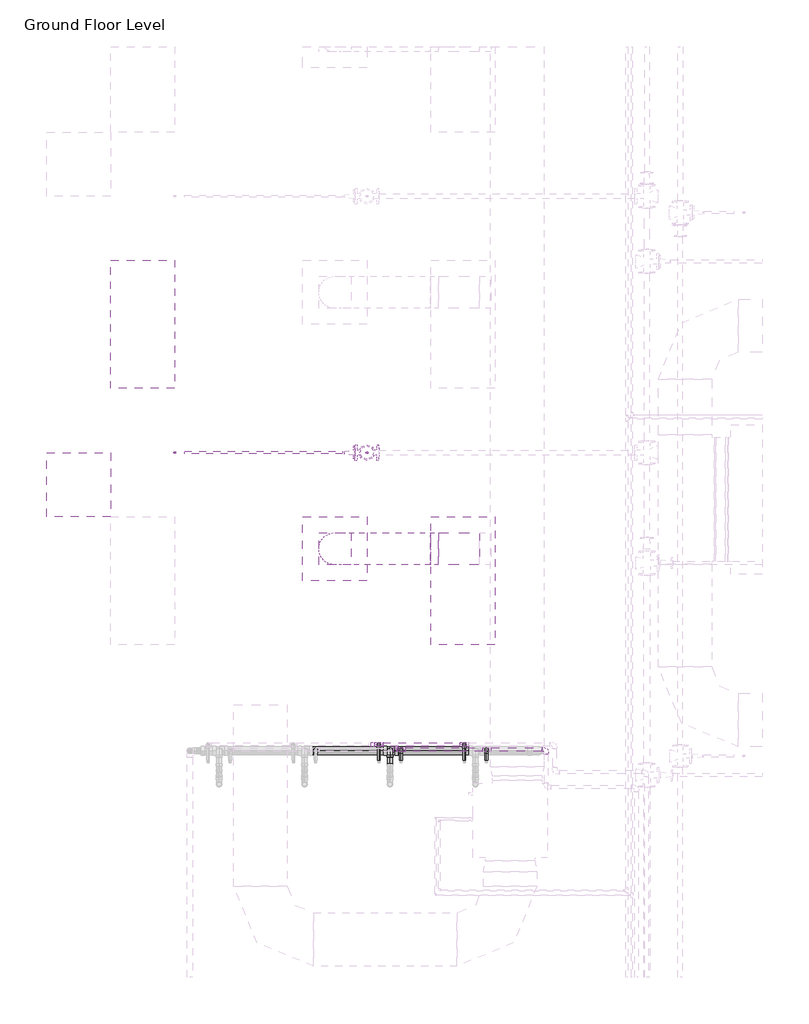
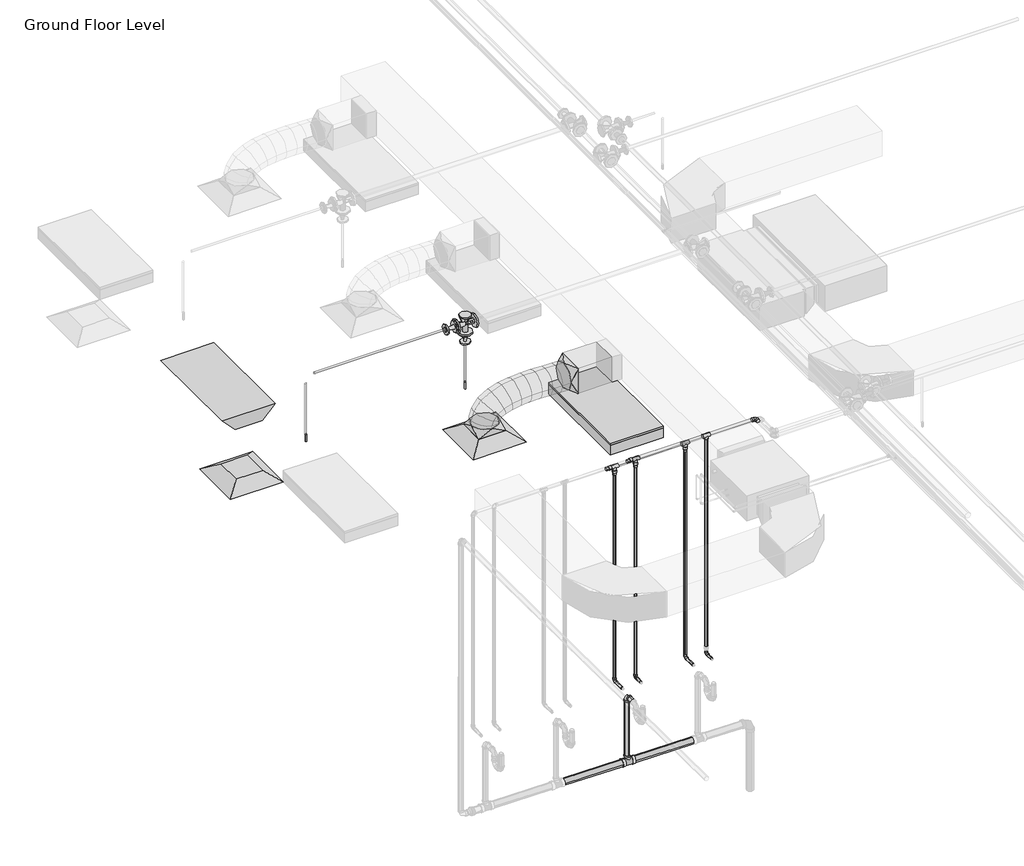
# One storey, part 24 of 74: 19 pipe fittings, 18 pipe segments, 2 air terminals, 2 duct fittings, 2 duct segments, 2 fire suppression terminals, 2 light fixtures.
"""IFC4 building model written with IfcOpenShell, lengths in millimetres."""

from ifc_helpers import new_model, si_unit, point, frame, frame_2d, origin, place, context, project, spatial, polyline, circle_curve, ellipse_curve, trimmed, segment, composite_curve, outline, extrude, transform, mapped, element, save
from ifc_brep_helpers import plane_surface, cylinder_surface, advanced_brep
from components import m_return_diffuser_600_x_600_face_300_x_300_connection_ff221211, m_rectangular_to_round_transition_angle_45_degree_641efff0, m_sprinkler_dry_pendent_hosted_15_mm_dry_pendent_9bda8e11, m_emergency_recessed_lighting_fixture_600x1200_277_5b10b25d, m_troffer_light_parabolic_rectangular1_0600x1200mm_4_lamp_86473d4a, m_bend_pvc_sch_40_dwv_standard_b3f66ba9, m_reducer_flanged_cs_class_150_standard_dc68ad9d, m_tee_reducing_sanitary_pvc_sch_40_dwv_standard_21d2848c, m_tee_round_base_flanged_cs_class_150_standard_ab36f383, standard_b266ab3f, standard_517a5a8d, standard_72b35c3b, standard_e954f56a, standard_e5aa6446

model = new_model("IFC4")

# Units and contexts
model_context = context("Model", 3, world=origin())
ifc_project = project(units=[si_unit("LENGTHUNIT", "METRE", prefix="MILLI")], contexts=[model_context])

# Site, building, storey
site = spatial("IfcSite", under=ifc_project)
building = spatial("IfcBuilding", under=site)
storey = spatial("IfcBuildingStorey", under=building, Name="Ground Floor Level", Elevation=900.0)

# Air terminals
placement = place(None, origin())
m_return_diffuser_600_x_600_face_300_x_300_connection_shape = m_return_diffuser_600_x_600_face_300_x_300_connection_ff221211(model_context)
element("IfcAirTerminal", 1, ObjectType="M_Return Diffuser : 600 x 600 Face 300 x 300 Connection", at=placement, inside=storey, context=model_context, shape_type="MappedRepresentation", body=[
    mapped(m_return_diffuser_600_x_600_face_300_x_300_connection_shape, transform((362.7672395, -21364.7846466, 3650.0), x_axis=(1.0, 0.0, 0.0), y_axis=(0.0, 1.0, 0.0), z_axis=(0.0, 0.0, 1.0))),
])
element("IfcAirTerminal", 2, ObjectType="M_Supply Diffuser : 600 x 600 Face 300 x 300 Connection", at=placement, inside=storey, context=model_context, shape_type="MappedRepresentation", body=[
    mapped(m_return_diffuser_600_x_600_face_300_x_300_connection_shape, transform((2762.7672395, -21964.7846466, 3650.0), x_axis=(1.0, 0.0, 0.0), y_axis=(0.0, 1.0, 0.0), z_axis=(0.0, 0.0, 1.0))),
])

# Duct fittings
m_rectangular_to_round_transition_angle_45_degree_shape = m_rectangular_to_round_transition_angle_45_degree_641efff0(model_context)
element("IfcDuctFitting", 3, ObjectType="M_Rectangular to Round Transition - Angle : 45 Degree", at=placement, inside=storey, context=model_context, shape_type="MappedRepresentation", body=[
    mapped(m_rectangular_to_round_transition_angle_45_degree_shape, transform((2762.7672395, -21964.7846466, 3751.6), x_axis=(0.0, 0.0, 1.0), y_axis=(-1.0, 0.0, 0.0), z_axis=(0.0, -1.0, 0.0))),
])
element("IfcDuctFitting", 4, ObjectType="M_Rectangular to Round Transition - Angle : 45 Degree", at=placement, inside=storey, context=model_context, shape_type="MappedRepresentation", body=[
    mapped(m_rectangular_to_round_transition_angle_45_degree_shape, transform((3732.9512129, -21964.7846466, 4057.1519579), x_axis=(-1.0, 0.0, 0.0), y_axis=(0.0, -1.0, 0.0), z_axis=(0.0, 0.0, 1.0))),
])

# Duct segments
element("IfcDuctSegment", 5, ObjectType="Flex - Round", at=placement, inside=storey, context=model_context, shape_type="AdvancedBrep", body=[
    advanced_brep(
    [(2912.7672395, -21964.7846466, 3826.6), (2762.7672395, -22114.7846466, 3826.6), (2612.7672395, -21964.7846466, 3826.6), (2762.7672395, -21814.7846466, 3826.6), (2912.7672395, -21964.7846466, 3832.8904143), (2762.7672395, -22114.7846466, 3856.8494149), (2612.7672395, -21964.7846466, 3880.8084155), (2762.7672395, -21814.7846466, 3856.8494149), (2914.0859082, -21964.7846466, 3836.9129923), (2779.5128239, -22114.7846466, 3907.9315565), (2644.9397396, -21964.7846466, 3978.9501208), (2779.5128239, -21814.7846466, 3907.9315565), (2928.1338147, -21964.7846466, 3855.2244817), (2826.2856906, -22114.7846466, 3968.9001322), (2724.4375665, -21964.7846466, 4082.5757828), (2826.2856906, -21814.7846466, 3968.9001322), (2960.075367, -21964.7846466, 3874.5779986), (2897.8900097, -22114.7846466, 4012.2854816), (2835.7046525, -21964.7846466, 4149.9929645), (2897.8900097, -21814.7846466, 4012.2854816), (3023.3471395, -21964.7846466, 3894.3985509), (2989.1299517, -22114.7846466, 4040.8673589), (2954.9127638, -21964.7846466, 4187.3361668), (2989.1299517, -21814.7846466, 4040.8673589), (3111.2174774, -21964.7846466, 3908.1662907), (3094.8096865, -22114.7846466, 4057.4255186), (3078.4018957, -21964.7846466, 4206.6847465), (3094.8096865, -21814.7846466, 4057.4255186), (3215.0370803, -21964.7846466, 3914.773779), (3209.7333846, -22114.7846466, 4064.7397152), (3204.4296888, -21964.7846466, 4214.7056514), (3209.7333846, -21814.7846466, 4064.7397152), (3327.4369923, -21964.7846466, 3915.576814), (3328.705216, -22114.7846466, 4065.589703), (3329.9734397, -21964.7846466, 4215.6025919), (3328.705216, -21814.7846466, 4065.589703), (3442.2113611, -21964.7846466, 3912.815715), (3446.529351, -22114.7846466, 4062.7552364), (3450.847341, -21964.7846466, 4212.6947579), (3446.529351, -21814.7846466, 4062.7552364), (3554.0566752, -21964.7846466, 3909.0643159), (3558.0099599, -22114.7846466, 4059.0160699), (3561.9632447, -21964.7846466, 4208.9678239), (3558.0099599, -21814.7846466, 4059.0160699), (3657.9512129, -21964.7846466, 3907.1519579), (3657.9512129, -21814.7846466, 4057.1519579), (3657.9512129, -21964.7846466, 4207.1519579), (3657.9512129, -22114.7846466, 4057.1519579), (3653.7148319, -21964.7846466, 3907.1519579), (3655.1538878, -22114.7846466, 4057.1519579), (3656.5929436, -21964.7846466, 4207.1519579), (3655.1538878, -21814.7846466, 4057.1519579)],
    [
        (0, 1, circle_curve(frame((2762.7672395, -21964.7846466, 3826.6), z_axis=(0.0, 0.0, -1.0), x_axis=(1.0, 0.0, 0.0)), 150.0)),
        (1, 2, circle_curve(frame((2762.7672395, -21964.7846466, 3826.6), z_axis=(0.0, 0.0, -1.0), x_axis=(1.0, 0.0, 0.0)), 150.0)),
        (2, 3, circle_curve(frame((2762.7672395, -21964.7846466, 3826.6), z_axis=(0.0, 0.0, -1.0), x_axis=(1.0, 0.0, 0.0)), 150.0)),
        (3, 0, circle_curve(frame((2762.7672395, -21964.7846466, 3826.6), z_axis=(0.0, 0.0, -1.0), x_axis=(1.0, 0.0, 0.0)), 150.0)),
        (0, 4),
        (4, 5, ellipse_curve(frame((2762.7672395, -21964.7846466, 3856.8494149), z_axis=(-0.1577273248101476, 0.0, -0.9874827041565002), x_axis=(0.9874827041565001, 0.0, -0.1577273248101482)), 151.9013947, 150.0)),
        (5, 1),
        (5, 6, ellipse_curve(frame((2762.7672395, -21964.7846466, 3856.8494149), z_axis=(-0.1577273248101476, 0.0, -0.9874827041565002), x_axis=(0.9874827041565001, 0.0, -0.1577273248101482)), 151.9013947, 150.0)),
        (6, 2),
        (6, 7, ellipse_curve(frame((2762.7672395, -21964.7846466, 3856.8494149), z_axis=(-0.1577273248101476, 0.0, -0.9874827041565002), x_axis=(0.9874827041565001, 0.0, -0.1577273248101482)), 151.9013947, 150.0)),
        (7, 3),
        (7, 4, ellipse_curve(frame((2762.7672395, -21964.7846466, 3856.8494149), z_axis=(-0.1577273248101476, 0.0, -0.9874827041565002), x_axis=(0.9874827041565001, 0.0, -0.1577273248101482)), 151.9013947, 150.0)),
        (4, 8),
        (8, 9, ellipse_curve(frame((2779.5128239, -21964.7846466, 3907.9315565), z_axis=(-0.46672716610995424, 0.0, -0.8844013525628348), x_axis=(0.8844013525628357, 0.0, -0.466727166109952)), 152.162911, 150.0)),
        (9, 5),
        (9, 10, ellipse_curve(frame((2779.5128239, -21964.7846466, 3907.9315565), z_axis=(-0.46672716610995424, 0.0, -0.8844013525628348), x_axis=(0.8844013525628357, 0.0, -0.466727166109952)), 152.162911, 150.0)),
        (10, 6),
        (10, 11, ellipse_curve(frame((2779.5128239, -21964.7846466, 3907.9315565), z_axis=(-0.46672716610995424, 0.0, -0.8844013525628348), x_axis=(0.8844013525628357, 0.0, -0.466727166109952)), 152.162911, 150.0)),
        (11, 7),
        (11, 8, ellipse_curve(frame((2779.5128239, -21964.7846466, 3907.9315565), z_axis=(-0.46672716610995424, 0.0, -0.8844013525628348), x_axis=(0.8844013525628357, 0.0, -0.466727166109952)), 152.162911, 150.0)),
        (8, 12),
        (12, 13, ellipse_curve(frame((2826.2856906, -21964.7846466, 3968.9001322), z_axis=(-0.744790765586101, 0.0, -0.6672980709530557), x_axis=(0.6672980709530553, 0.0, -0.7447907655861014)), 152.6276316, 150.0)),
        (13, 9),
        (13, 14, ellipse_curve(frame((2826.2856906, -21964.7846466, 3968.9001322), z_axis=(-0.744790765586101, 0.0, -0.6672980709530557), x_axis=(0.6672980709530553, 0.0, -0.7447907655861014)), 152.6276316, 150.0)),
        (14, 10),
        (14, 15, ellipse_curve(frame((2826.2856906, -21964.7846466, 3968.9001322), z_axis=(-0.744790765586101, 0.0, -0.6672980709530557), x_axis=(0.6672980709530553, 0.0, -0.7447907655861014)), 152.6276316, 150.0)),
        (15, 11),
        (15, 12, ellipse_curve(frame((2826.2856906, -21964.7846466, 3968.9001322), z_axis=(-0.744790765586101, 0.0, -0.6672980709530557), x_axis=(0.6672980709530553, 0.0, -0.7447907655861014)), 152.6276316, 150.0)),
        (12, 16),
        (16, 17, ellipse_curve(frame((2897.8900097, -21964.7846466, 4012.2854816), z_axis=(-0.9113833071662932, 0.0, -0.41155858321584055), x_axis=(0.41155858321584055, 0.0, -0.9113833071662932)), 151.0972187, 150.0)),
        (17, 13),
        (17, 18, ellipse_curve(frame((2897.8900097, -21964.7846466, 4012.2854816), z_axis=(-0.9113833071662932, 0.0, -0.41155858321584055), x_axis=(0.41155858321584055, 0.0, -0.9113833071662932)), 151.0972187, 150.0)),
        (18, 14),
        (18, 19, ellipse_curve(frame((2897.8900097, -21964.7846466, 4012.2854816), z_axis=(-0.9113833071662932, 0.0, -0.41155858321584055), x_axis=(0.41155858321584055, 0.0, -0.9113833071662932)), 151.0972187, 150.0)),
        (19, 15),
        (19, 16, ellipse_curve(frame((2897.8900097, -21964.7846466, 4012.2854816), z_axis=(-0.9113833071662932, 0.0, -0.41155858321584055), x_axis=(0.41155858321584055, 0.0, -0.9113833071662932)), 151.0972187, 150.0)),
        (16, 20),
        (20, 21, ellipse_curve(frame((2989.1299517, -21964.7846466, 4040.8673589), z_axis=(-0.9737806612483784, 0.0, -0.22748895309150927), x_axis=(0.22748895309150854, 0.0, -0.9737806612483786)), 150.4125249, 150.0)),
        (21, 17),
        (21, 22, ellipse_curve(frame((2989.1299517, -21964.7846466, 4040.8673589), z_axis=(-0.9737806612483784, 0.0, -0.22748895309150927), x_axis=(0.22748895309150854, 0.0, -0.9737806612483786)), 150.4125249, 150.0)),
        (22, 18),
        (22, 23, ellipse_curve(frame((2989.1299517, -21964.7846466, 4040.8673589), z_axis=(-0.9737806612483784, 0.0, -0.22748895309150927), x_axis=(0.22748895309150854, 0.0, -0.9737806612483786)), 150.4125249, 150.0)),
        (23, 19),
        (23, 20, ellipse_curve(frame((2989.1299517, -21964.7846466, 4040.8673589), z_axis=(-0.9737806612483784, 0.0, -0.22748895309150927), x_axis=(0.22748895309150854, 0.0, -0.9737806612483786)), 150.4125249, 150.0)),
        (20, 24),
        (24, 25, ellipse_curve(frame((3094.8096865, -21964.7846466, 4057.4255186), z_axis=(-0.9940121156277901, 0.0, -0.109269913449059), x_axis=(0.10926991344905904, 0.0, -0.9940121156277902)), 150.1583588, 150.0)),
        (25, 21),
        (25, 26, ellipse_curve(frame((3094.8096865, -21964.7846466, 4057.4255186), z_axis=(-0.9940121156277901, 0.0, -0.109269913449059), x_axis=(0.10926991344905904, 0.0, -0.9940121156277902)), 150.1583588, 150.0)),
        (26, 22),
        (26, 27, ellipse_curve(frame((3094.8096865, -21964.7846466, 4057.4255186), z_axis=(-0.9940121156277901, 0.0, -0.109269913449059), x_axis=(0.10926991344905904, 0.0, -0.9940121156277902)), 150.1583588, 150.0)),
        (27, 23),
        (27, 24, ellipse_curve(frame((3094.8096865, -21964.7846466, 4057.4255186), z_axis=(-0.9940121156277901, 0.0, -0.109269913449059), x_axis=(0.10926991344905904, 0.0, -0.9940121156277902)), 150.1583588, 150.0)),
        (24, 28),
        (28, 29, ellipse_curve(frame((3209.7333846, -21964.7846466, 4064.7397152), z_axis=(-0.9993752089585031, 0.0, -0.035343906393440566), x_axis=(0.035343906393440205, 0.0, -0.9993752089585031)), 150.0596922, 150.0)),
        (29, 25),
        (29, 30, ellipse_curve(frame((3209.7333846, -21964.7846466, 4064.7397152), z_axis=(-0.9993752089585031, 0.0, -0.035343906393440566), x_axis=(0.035343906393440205, 0.0, -0.9993752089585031)), 150.0596922, 150.0)),
        (30, 26),
        (30, 31, ellipse_curve(frame((3209.7333846, -21964.7846466, 4064.7397152), z_axis=(-0.9993752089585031, 0.0, -0.035343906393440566), x_axis=(0.035343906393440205, 0.0, -0.9993752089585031)), 150.0596922, 150.0)),
        (31, 27),
        (31, 28, ellipse_curve(frame((3209.7333846, -21964.7846466, 4064.7397152), z_axis=(-0.9993752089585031, 0.0, -0.035343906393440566), x_axis=(0.035343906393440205, 0.0, -0.9993752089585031)), 150.0596922, 150.0)),
        (28, 32),
        (32, 33, ellipse_curve(frame((3328.705216, -21964.7846466, 4065.589703), z_axis=(-0.9999642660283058, 0.0, 0.008453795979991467), x_axis=(-0.00845379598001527, 0.0, -0.9999642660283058)), 150.0182497, 150.0)),
        (33, 29),
        (33, 34, ellipse_curve(frame((3328.705216, -21964.7846466, 4065.589703), z_axis=(-0.9999642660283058, 0.0, 0.008453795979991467), x_axis=(-0.00845379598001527, 0.0, -0.9999642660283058)), 150.0182497, 150.0)),
        (34, 30),
        (34, 35, ellipse_curve(frame((3328.705216, -21964.7846466, 4065.589703), z_axis=(-0.9999642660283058, 0.0, 0.008453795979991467), x_axis=(-0.00845379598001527, 0.0, -0.9999642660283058)), 150.0182497, 150.0)),
        (35, 31),
        (35, 32, ellipse_curve(frame((3328.705216, -21964.7846466, 4065.589703), z_axis=(-0.9999642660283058, 0.0, 0.008453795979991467), x_axis=(-0.00845379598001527, 0.0, -0.9999642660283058)), 150.0182497, 150.0)),
        (32, 36),
        (36, 37, ellipse_curve(frame((3446.529351, -21964.7846466, 4062.7552364), z_axis=(-0.9995855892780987, 0.0, 0.028786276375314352), x_axis=(-0.028786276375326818, 0.0, -0.9995855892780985)), 150.0016838, 150.0)),
        (37, 33),
        (37, 38, ellipse_curve(frame((3446.529351, -21964.7846466, 4062.7552364), z_axis=(-0.9995855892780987, 0.0, 0.028786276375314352), x_axis=(-0.028786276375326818, 0.0, -0.9995855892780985)), 150.0016838, 150.0)),
        (38, 34),
        (38, 39, ellipse_curve(frame((3446.529351, -21964.7846466, 4062.7552364), z_axis=(-0.9995855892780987, 0.0, 0.028786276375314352), x_axis=(-0.028786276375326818, 0.0, -0.9995855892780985)), 150.0016838, 150.0)),
        (39, 35),
        (39, 36, ellipse_curve(frame((3446.529351, -21964.7846466, 4062.7552364), z_axis=(-0.9995855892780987, 0.0, 0.028786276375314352), x_axis=(-0.028786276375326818, 0.0, -0.9995855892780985)), 150.0016838, 150.0)),
        (36, 40),
        (40, 41, ellipse_curve(frame((3558.0099599, -21964.7846466, 4059.0160699), z_axis=(-0.999652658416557, 0.0, 0.026354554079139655), x_axis=(0.026354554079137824, 0.0, 0.9996526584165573)), 150.0038566, 150.0)),
        (41, 37),
        (41, 42, ellipse_curve(frame((3558.0099599, -21964.7846466, 4059.0160699), z_axis=(-0.999652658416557, 0.0, 0.026354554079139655), x_axis=(0.026354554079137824, 0.0, 0.9996526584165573)), 150.0038566, 150.0)),
        (42, 38),
        (42, 43, ellipse_curve(frame((3558.0099599, -21964.7846466, 4059.0160699), z_axis=(-0.999652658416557, 0.0, 0.026354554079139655), x_axis=(0.026354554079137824, 0.0, 0.9996526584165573)), 150.0038566, 150.0)),
        (43, 39),
        (43, 40, ellipse_curve(frame((3558.0099599, -21964.7846466, 4059.0160699), z_axis=(-0.999652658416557, 0.0, 0.026354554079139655), x_axis=(0.026354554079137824, 0.0, 0.9996526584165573)), 150.0038566, 150.0)),
        (44, 45, circle_curve(frame((3657.9512129, -21964.7846466, 4057.1519579), z_axis=(1.0, 0.0, 0.0), x_axis=(0.0, 0.0, -1.0)), 150.0)),
        (45, 46, circle_curve(frame((3657.9512129, -21964.7846466, 4057.1519579), z_axis=(1.0, 0.0, 0.0), x_axis=(0.0, 0.0, -1.0)), 150.0)),
        (46, 47, circle_curve(frame((3657.9512129, -21964.7846466, 4057.1519579), z_axis=(1.0, 0.0, 0.0), x_axis=(0.0, 0.0, -1.0)), 150.0)),
        (47, 44, circle_curve(frame((3657.9512129, -21964.7846466, 4057.1519579), z_axis=(1.0, 0.0, 0.0), x_axis=(0.0, 0.0, -1.0)), 150.0)),
        (40, 48),
        (48, 49, ellipse_curve(frame((3655.1538878, -21964.7846466, 4057.1519579), z_axis=(-0.9999539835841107, 0.0, 0.009593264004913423), x_axis=(0.009593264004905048, 0.0, 0.9999539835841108)), 150.0069028, 150.0)),
        (49, 41),
        (49, 50, ellipse_curve(frame((3655.1538878, -21964.7846466, 4057.1519579), z_axis=(-0.9999539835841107, 0.0, 0.009593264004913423), x_axis=(0.009593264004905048, 0.0, 0.9999539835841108)), 150.0069028, 150.0)),
        (50, 42),
        (50, 51, ellipse_curve(frame((3655.1538878, -21964.7846466, 4057.1519579), z_axis=(-0.9999539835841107, 0.0, 0.009593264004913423), x_axis=(0.009593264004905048, 0.0, 0.9999539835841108)), 150.0069028, 150.0)),
        (51, 43),
        (51, 48, ellipse_curve(frame((3655.1538878, -21964.7846466, 4057.1519579), z_axis=(-0.9999539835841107, 0.0, 0.009593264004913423), x_axis=(0.009593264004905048, 0.0, 0.9999539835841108)), 150.0069028, 150.0)),
        (48, 44),
        (47, 49),
        (46, 50),
        (45, 51),
    ],
    [
        plane_surface(frame((2762.7672395, -22114.7846466, 3826.6), z_axis=(0.0, 0.0, -1.0), x_axis=(1.0, 0.0, 0.0))),
        cylinder_surface(frame((2762.7672395, -21964.7846466, 3826.6), z_axis=(0.0, 0.0, -1.0), x_axis=(1.0, 0.0, 0.0)), 150.0),
        cylinder_surface(frame((2762.7672395, -21964.7846466, 3856.8494149), z_axis=(-0.3115060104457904, 0.0, -0.9502441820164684), x_axis=(0.9502441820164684, 0.0, -0.3115060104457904)), 150.0),
        cylinder_surface(frame((2779.5128239, -21964.7846466, 3907.9315565), z_axis=(-0.6086797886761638, 0.0, -0.7934159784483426), x_axis=(0.7934159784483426, 0.0, -0.6086797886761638)), 150.0),
        cylinder_surface(frame((2826.2856906, -21964.7846466, 3968.9001322), z_axis=(-0.8552571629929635, 0.0, -0.5182038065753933), x_axis=(0.5182038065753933, 0.0, -0.8552571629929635)), 150.0),
        cylinder_surface(frame((2897.8900097, -21964.7846466, 4012.2854816), z_axis=(-0.9542731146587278, 0.0, -0.29893615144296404), x_axis=(0.29893615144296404, 0.0, -0.9542731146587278)), 150.0),
        cylinder_surface(frame((2989.1299517, -21964.7846466, 4040.8673589), z_axis=(-0.9879467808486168, 0.0, -0.15479392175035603), x_axis=(0.15479392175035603, 0.0, -0.9879467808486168)), 150.0),
        cylinder_surface(frame((3094.8096865, -21964.7846466, 4057.4255186), z_axis=(-0.997980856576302, 0.0, -0.06351543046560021), x_axis=(0.06351543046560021, 0.0, -0.997980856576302)), 150.0),
        cylinder_surface(frame((3209.7333846, -21964.7846466, 4064.7397152), z_axis=(-0.9999744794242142, 0.0, -0.007144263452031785), x_axis=(0.007144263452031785, 0.0, -0.9999744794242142)), 150.0),
        cylinder_surface(frame((3328.705216, -21964.7846466, 4065.589703), z_axis=(-0.9997107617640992, 0.0, 0.024049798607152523), x_axis=(-0.024049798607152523, 0.0, -0.9997107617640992)), 150.0),
        cylinder_surface(frame((3446.529351, -21964.7846466, 4062.7552364), z_axis=(-0.9994379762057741, 0.0, 0.03352210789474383), x_axis=(-0.03352210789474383, 0.0, -0.9994379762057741)), 150.0),
        plane_surface(frame((3657.9512129, -21964.7846466, 3907.1519579), z_axis=(1.0, 0.0, 0.0), x_axis=(0.0, 1.0, 0.0))),
        cylinder_surface(frame((3558.0099599, -21964.7846466, 4059.0160699), z_axis=(-0.9998159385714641, 0.0, 0.01918564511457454), x_axis=(-0.01918564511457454, 0.0, -0.9998159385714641)), 150.0),
        cylinder_surface(frame((3655.1538878, -21964.7846466, 4057.1519579), z_axis=(-1.0, 0.0, 0.0), x_axis=(0.0, 0.0, -1.0)), 150.0),
    ],
    [
        (0, [[1, 2, 3, 4]]),
        (1, [[-1, 5, 6, 7]]),
        (1, [[-2, -7, 8, 9]]),
        (1, [[-3, -9, 10, 11]]),
        (1, [[-4, -11, 12, -5]]),
        (2, [[-6, 13, 14, 15]]),
        (2, [[-8, -15, 16, 17]]),
        (2, [[-10, -17, 18, 19]]),
        (2, [[-12, -19, 20, -13]]),
        (3, [[-14, 21, 22, 23]]),
        (3, [[-16, -23, 24, 25]]),
        (3, [[-18, -25, 26, 27]]),
        (3, [[-20, -27, 28, -21]]),
        (4, [[-22, 29, 30, 31]]),
        (4, [[-24, -31, 32, 33]]),
        (4, [[-26, -33, 34, 35]]),
        (4, [[-28, -35, 36, -29]]),
        (5, [[-30, 37, 38, 39]]),
        (5, [[-32, -39, 40, 41]]),
        (5, [[-34, -41, 42, 43]]),
        (5, [[-36, -43, 44, -37]]),
        (6, [[-38, 45, 46, 47]]),
        (6, [[-40, -47, 48, 49]]),
        (6, [[-42, -49, 50, 51]]),
        (6, [[-44, -51, 52, -45]]),
        (7, [[-46, 53, 54, 55]]),
        (7, [[-48, -55, 56, 57]]),
        (7, [[-50, -57, 58, 59]]),
        (7, [[-52, -59, 60, -53]]),
        (8, [[-54, 61, 62, 63]]),
        (8, [[-56, -63, 64, 65]]),
        (8, [[-58, -65, 66, 67]]),
        (8, [[-60, -67, 68, -61]]),
        (9, [[-62, 69, 70, 71]]),
        (9, [[-64, -71, 72, 73]]),
        (9, [[-66, -73, 74, 75]]),
        (9, [[-68, -75, 76, -69]]),
        (10, [[-70, 77, 78, 79]]),
        (10, [[-72, -79, 80, 81]]),
        (10, [[-74, -81, 82, 83]]),
        (10, [[-76, -83, 84, -77]]),
        (11, [[85, 86, 87, 88]]),
        (12, [[-78, 89, 90, 91]]),
        (12, [[-80, -91, 92, 93]]),
        (12, [[-82, -93, 94, 95]]),
        (12, [[-84, -95, 96, -89]]),
        (13, [[-90, 97, -88, 98]]),
        (13, [[-92, -98, -87, 99]]),
        (13, [[-94, -99, -86, 100]]),
        (13, [[-96, -100, -85, -97]]),
    ],
),
])
element("IfcDuctSegment", 6, ObjectType="Radius Elbows / Taps", at=placement, inside=storey, context=model_context, shape_type="SweptSolid", body=[
    extrude(outline(polyline([(4117.5581832, -21814.7846466), (4117.5581832, -22114.7846466), (3732.9512129, -22114.7846466), (3732.9512129, -21814.7846466), (4117.5581832, -21814.7846466)])), frame((0.0, 0.0, 3907.1519579), z_axis=(0.0, 0.0, 1.0), x_axis=(1.0, 0.0, 0.0)), (0.0, 0.0, 1.0), 300.0),
])

# Fire suppression terminals
m_sprinkler_dry_pendent_hosted_15_mm_dry_pendent_shape = m_sprinkler_dry_pendent_hosted_15_mm_dry_pendent_9bda8e11(model_context)
element("IfcFireSuppressionTerminal", 7, ObjectType="M_Sprinkler - Dry - Pendent - Hosted : 15 mm Dry Pendent", at=placement, inside=storey, context=model_context, shape_type="MappedRepresentation", body=[
    mapped(m_sprinkler_dry_pendent_hosted_15_mm_dry_pendent_shape, transform((1262.7672395, -21064.7846466, 3650.0), x_axis=(1.0, 0.0, 0.0), y_axis=(0.0, -1.0, 0.0), z_axis=(0.0, 0.0, -1.0))),
])
element("IfcFireSuppressionTerminal", 8, ObjectType="M_Sprinkler - Dry - Pendent - Hosted : 15 mm Dry Pendent", at=placement, inside=storey, context=model_context, shape_type="MappedRepresentation", body=[
    mapped(m_sprinkler_dry_pendent_hosted_15_mm_dry_pendent_shape, transform((3062.7672395, -21064.7846466, 3650.0), x_axis=(1.0, 0.0, 0.0), y_axis=(0.0, -1.0, 0.0), z_axis=(0.0, 0.0, -1.0))),
])

# Light fixtures
m_emergency_recessed_lighting_fixture_600x1200_277_shape = m_emergency_recessed_lighting_fixture_600x1200_277_5b10b25d(model_context)
element("IfcLightFixture", 9, ObjectType="M_Emergency Recessed Lighting Fixture : 600x1200 - 277", at=placement, inside=storey, context=model_context, shape_type="MappedRepresentation", body=[
    mapped(m_emergency_recessed_lighting_fixture_600x1200_277_shape, transform((662.7672395, -20464.7846466, 3650.0), x_axis=(0.0, 1.0, 0.0), y_axis=(-1.0, 0.0, 0.0), z_axis=(0.0, 0.0, 1.0))),
])
m_troffer_light_parabolic_rectangular1_0600x1200mm_4_lamp_shape = m_troffer_light_parabolic_rectangular1_0600x1200mm_4_lamp_86473d4a(model_context)
element("IfcLightFixture", 10, ObjectType="M_Troffer Light - Parabolic Rectangular1 : 0600x1200mm(4 Lamp) - 277V 2", at=placement, inside=storey, context=model_context, shape_type="MappedRepresentation", body=[
    mapped(m_troffer_light_parabolic_rectangular1_0600x1200mm_4_lamp_shape, transform((3903.3013074, -22246.081145, 3650.0), x_axis=(0.0, 1.0, 0.0), y_axis=(-1.0, 0.0, 0.0), z_axis=(0.0, 0.0, 1.0))),
])

# Pipe fittings
m_bend_pvc_sch_40_dwv_standard_shape = m_bend_pvc_sch_40_dwv_standard_b3f66ba9(model_context)
element("IfcPipeFitting", 11, ObjectType="M_Bend - PVC - Sch 40 - DWV : Standard", at=placement, inside=storey, context=model_context, shape_type="MappedRepresentation", body=[
    mapped(m_bend_pvc_sch_40_dwv_standard_shape, transform((3279.14976, -23854.2948449, 1508.2594199), x_axis=(0.0, 0.9999578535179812, -0.009181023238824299), y_axis=(0.0, -0.009181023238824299, -0.9999578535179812), z_axis=(-1.0, 0.0, 0.0))),
])
m_reducer_flanged_cs_class_150_standard_shape = m_reducer_flanged_cs_class_150_standard_dc68ad9d(model_context)
element("IfcPipeFitting", 12, ObjectType="M_Reducer - Flanged - CS - Class 150 : Standard", at=placement, inside=storey, context=model_context, shape_type="MappedRepresentation", body=[
    mapped(m_reducer_flanged_cs_class_150_standard_shape, transform((2950.5086457, -21064.7846466, 4347.5), x_axis=(-1.0, 0.0, 0.0), y_axis=(0.0, 0.0, 1.0), z_axis=(0.0, 1.0, 0.0))),
])
element("IfcPipeFitting", 13, ObjectType="M_Reducer - Flanged - CS - Class 150 : Standard", at=placement, inside=storey, context=model_context, shape_type="MappedRepresentation", body=[
    mapped(m_reducer_flanged_cs_class_150_standard_shape, transform((3062.7672395, -21064.7846466, 4235.2414062), x_axis=(0.0, 0.0, -1.0), y_axis=(-1.0, 0.0, 0.0), z_axis=(0.0, 1.0, 0.0))),
])
m_tee_reducing_sanitary_pvc_sch_40_dwv_standard_shape = m_tee_reducing_sanitary_pvc_sch_40_dwv_standard_21d2848c(model_context)
element("IfcPipeFitting", 14, ObjectType="M_Tee Reducing Sanitary - PVC - Sch 40 - DWV : Standard", at=placement, inside=storey, context=model_context, shape_type="MappedRepresentation", body=[
    mapped(m_tee_reducing_sanitary_pvc_sch_40_dwv_standard_shape, transform((3279.3782372, -23854.2948449, 721.0632162), x_axis=(-0.9999500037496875, 0.0, 0.009999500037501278), y_axis=(-0.009999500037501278, 0.0, -0.9999500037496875), z_axis=(0.0, -1.0, 0.0))),
])
m_tee_round_base_flanged_cs_class_150_standard_shape = m_tee_round_base_flanged_cs_class_150_standard_ab36f383(model_context)
element("IfcPipeFitting", 15, ObjectType="M_Tee Round Base - Flanged - CS - Class 150 : Standard", at=placement, inside=storey, context=model_context, shape_type="MappedRepresentation", body=[
    mapped(m_tee_round_base_flanged_cs_class_150_standard_shape, transform((3062.7672395, -21064.7846466, 4347.5), x_axis=(-1.0, 0.0, 0.0), y_axis=(0.0, 0.0, 1.0), z_axis=(0.0, 1.0, 0.0))),
])
standard_shape = standard_b266ab3f(model_context)
element("IfcPipeFitting", 16, ObjectType="M_Elbow - CPVC - Sch 40 : Standard", at=placement, inside=storey, context=model_context, shape_type="MappedRepresentation", body=[
    mapped(standard_shape, transform((4183.0647206, -23844.7846466, 1690.0), x_axis=(0.0, 1.0, 0.0), y_axis=(0.0, 0.0, 1.0), z_axis=(1.0, 0.0, 0.0))),
])
element("IfcPipeFitting", 17, ObjectType="M_Elbow - CPVC - Sch 40 : Standard", at=placement, inside=storey, context=model_context, shape_type="MappedRepresentation", body=[
    mapped(standard_shape, transform((3383.0647206, -23844.7846466, 1690.0), x_axis=(0.0, 0.0, -1.0), y_axis=(0.0, -1.0, 0.0), z_axis=(-1.0, 0.0, 0.0))),
])
element("IfcPipeFitting", 18, ObjectType="M_Elbow - CPVC - Sch 40 : Standard", at=placement, inside=storey, context=model_context, shape_type="MappedRepresentation", body=[
    mapped(standard_shape, transform((3174.4348794, -23794.921633, 1690.0), x_axis=(0.0, 1.0, 0.0), y_axis=(0.0, 0.0, 1.0), z_axis=(1.0, 0.0, 0.0))),
])
element("IfcPipeFitting", 19, ObjectType="M_Elbow - CPVC - Sch 40 : Standard", at=placement, inside=storey, context=model_context, shape_type="MappedRepresentation", body=[
    mapped(standard_shape, transform((3974.4348794, -23794.921633, 1690.0), x_axis=(0.0, 1.0, 0.0), y_axis=(0.0, 0.0, 1.0), z_axis=(1.0, 0.0, 0.0))),
])
standard_2_shape = standard_517a5a8d(model_context)
element("IfcPipeFitting", 20, ObjectType="M_Elbow - CPVC - Sch 40 : Standard", at=placement, inside=storey, context=model_context, shape_type="MappedRepresentation", body=[
    mapped(standard_2_shape, transform((4743.0647206, -23844.7846466, 4300.0), x_axis=(0.0, 1.0, 0.0), y_axis=(-1.0, 0.0, 0.0), z_axis=(0.0, 0.0, 1.0))),
])
standard_3_shape = standard_72b35c3b(model_context)
element("IfcPipeFitting", 21, ObjectType="M_Tee - CPVC - Sch 40 : Standard", at=placement, inside=storey, context=model_context, shape_type="MappedRepresentation", body=[
    mapped(standard_3_shape, transform((4183.0647206, -23844.7846466, 4300.0), x_axis=(-1.0, 0.0, 0.0), y_axis=(0.0, 0.0, 1.0), z_axis=(0.0, 1.0, 0.0))),
])
element("IfcPipeFitting", 22, ObjectType="M_Tee - CPVC - Sch 40 : Standard", at=placement, inside=storey, context=model_context, shape_type="MappedRepresentation", body=[
    mapped(standard_3_shape, transform((3383.0647206, -23844.7846466, 4300.0), x_axis=(1.0, 0.0, 0.0), y_axis=(0.0, 0.0, 1.0), z_axis=(0.0, -1.0, 0.0))),
])
element("IfcPipeFitting", 23, ObjectType="M_Tee - CPVC - Sch 40 : Standard", at=placement, inside=storey, context=model_context, shape_type="MappedRepresentation", body=[
    mapped(standard_3_shape, transform((3174.4348794, -23794.921633, 4250.0), x_axis=(-1.0, 0.0, 0.0), y_axis=(0.0, 0.0, 1.0), z_axis=(0.0, 1.0, 0.0))),
])
element("IfcPipeFitting", 24, ObjectType="M_Tee - CPVC - Sch 40 : Standard", at=placement, inside=storey, context=model_context, shape_type="MappedRepresentation", body=[
    mapped(standard_3_shape, transform((3974.4348794, -23794.921633, 4250.0), x_axis=(-1.0, 0.0, 0.0), y_axis=(0.0, 0.0, 1.0), z_axis=(0.0, 1.0, 0.0))),
])
standard_4_shape = standard_e954f56a(model_context)
element("IfcPipeFitting", 25, ObjectType="M_Coupling Reducing - CPVC - Sch 40 : Standard", at=placement, inside=storey, context=model_context, shape_type="MappedRepresentation", body=[
    mapped(standard_4_shape, transform((3343.3645206, -23844.7846466, 4300.0), x_axis=(-1.0, 0.0, 0.0), y_axis=(0.0, -1.0, 0.0), z_axis=(0.0, 0.0, 1.0))),
])
element("IfcPipeFitting", 26, ObjectType="M_Coupling Reducing - CPVC - Sch 40 : Standard", at=placement, inside=storey, context=model_context, shape_type="MappedRepresentation", body=[
    mapped(standard_4_shape, transform((3383.0647206, -23844.7846466, 4260.2998), x_axis=(0.0, 0.0, -1.0), y_axis=(1.0, 0.0, 0.0), z_axis=(0.0, -1.0, 0.0))),
])
element("IfcPipeFitting", 27, ObjectType="M_Coupling Reducing - CPVC - Sch 40 : Standard", at=placement, inside=storey, context=model_context, shape_type="MappedRepresentation", body=[
    mapped(standard_4_shape, transform((3174.4348794, -23794.921633, 4210.2998), x_axis=(0.0, 0.0, -1.0), y_axis=(-1.0, 0.0, 0.0), z_axis=(0.0, 1.0, 0.0))),
])
element("IfcPipeFitting", 28, ObjectType="M_Coupling Reducing - CPVC - Sch 40 : Standard", at=placement, inside=storey, context=model_context, shape_type="MappedRepresentation", body=[
    mapped(standard_4_shape, transform((3974.4348794, -23794.921633, 4210.2998), x_axis=(0.0, 0.0, -1.0), y_axis=(-1.0, 0.0, 0.0), z_axis=(0.0, 1.0, 0.0))),
])
standard_5_shape = standard_e5aa6446(model_context)
element("IfcPipeFitting", 29, ObjectType="M_Coupling Reducing - CPVC - Sch 40 : Standard", at=placement, inside=storey, context=model_context, shape_type="MappedRepresentation", body=[
    mapped(standard_5_shape, transform((3134.7346794, -23794.921633, 4250.0), x_axis=(-1.0, 0.0, 0.0), y_axis=(0.0, -1.0, 0.0), z_axis=(0.0, 0.0, 1.0))),
])

# Pipe segments
element("IfcPipeSegment", 30, ObjectType="CPVC", at=placement, inside=storey, context=model_context, shape_type="SweptSolid", body=[
    extrude(outline(composite_curve([segment(trimmed(circle_curve(frame_2d((1690.0, 4183.0647206)), 13.335), [point((1690.0, 4196.3997206))], [point((1703.335, 4183.0647206))], False, "CARTESIAN"), True, "CONTINUOUS"), segment(trimmed(circle_curve(frame_2d((1690.0, 4183.0647206)), 13.335), [point((1703.335, 4183.0647206))], [point((1690.0, 4169.7297206))], False, "CARTESIAN"), True, "CONTINUOUS"), segment(trimmed(circle_curve(frame_2d((1690.0, 4183.0647206)), 13.335), [point((1690.0, 4169.7297206))], [point((1676.665, 4183.0647206))], False, "CARTESIAN"), True, "CONTINUOUS"), segment(trimmed(circle_curve(frame_2d((1690.0, 4183.0647206)), 13.335), [point((1676.665, 4183.0647206))], [point((1690.0, 4196.3997206))], False, "CARTESIAN"), True, "CONTINUOUS")], self_intersect=False)), frame((0.0, -23944.7846466, 0.0), z_axis=(0.0, 1.0, 0.0), x_axis=(0.0, 0.0, 1.0)), (0.0, 0.0, 1.0), 64.67495),
])
element("IfcPipeSegment", 31, ObjectType="CPVC", at=placement, inside=storey, context=model_context, shape_type="SweptSolid", body=[
    extrude(outline(composite_curve([segment(trimmed(circle_curve(frame_2d((-23844.7846466, 4300.0)), 16.7005), [point((-23861.4851466, 4300.0))], [point((-23844.7846466, 4316.7005))], False, "CARTESIAN"), True, "CONTINUOUS"), segment(trimmed(circle_curve(frame_2d((-23844.7846466, 4300.0)), 16.7005), [point((-23844.7846466, 4316.7005))], [point((-23828.0841466, 4300.0))], False, "CARTESIAN"), True, "CONTINUOUS"), segment(trimmed(circle_curve(frame_2d((-23844.7846466, 4300.0)), 16.7005), [point((-23828.0841466, 4300.0))], [point((-23844.7846466, 4283.2995))], False, "CARTESIAN"), True, "CONTINUOUS"), segment(trimmed(circle_curve(frame_2d((-23844.7846466, 4300.0)), 16.7005), [point((-23844.7846466, 4283.2995))], [point((-23861.4851466, 4300.0))], False, "CARTESIAN"), True, "CONTINUOUS")], self_intersect=False)), frame((4222.7649206, 0.0, 0.0), z_axis=(1.0, 0.0, 0.0), x_axis=(0.0, 1.0, 0.0)), (0.0, 0.0, 1.0), 477.03725),
])
element("IfcPipeSegment", 32, ObjectType="CPVC", at=placement, inside=storey, context=model_context, shape_type="SweptSolid", body=[
    extrude(outline(composite_curve([segment(trimmed(circle_curve(frame_2d((4183.0647206, -23844.7846466)), 16.7005), [point((4166.3642206, -23844.7846466))], [point((4183.0647206, -23828.0841466))], False, "CARTESIAN"), True, "CONTINUOUS"), segment(trimmed(circle_curve(frame_2d((4183.0647206, -23844.7846466)), 16.7005), [point((4183.0647206, -23828.0841466))], [point((4199.7652206, -23844.7846466))], False, "CARTESIAN"), True, "CONTINUOUS"), segment(trimmed(circle_curve(frame_2d((4183.0647206, -23844.7846466)), 16.7005), [point((4199.7652206, -23844.7846466))], [point((4183.0647206, -23861.4851466))], False, "CARTESIAN"), True, "CONTINUOUS"), segment(trimmed(circle_curve(frame_2d((4183.0647206, -23844.7846466)), 16.7005), [point((4183.0647206, -23861.4851466))], [point((4166.3642206, -23844.7846466))], False, "CARTESIAN"), True, "CONTINUOUS")], self_intersect=False)), frame((0.0, 0.0, 1782.47505), z_axis=(0.0, 0.0, 1.0), x_axis=(1.0, 0.0, 0.0)), (0.0, 0.0, 1.0), 2477.82475),
])
element("IfcPipeSegment", 33, ObjectType="CPVC", at=placement, inside=storey, context=model_context, shape_type="SweptSolid", body=[
    extrude(outline(composite_curve([segment(trimmed(circle_curve(frame_2d((1690.0, 3383.0647206)), 13.335), [point((1690.0, 3396.3997206))], [point((1703.335, 3383.0647206))], False, "CARTESIAN"), True, "CONTINUOUS"), segment(trimmed(circle_curve(frame_2d((1690.0, 3383.0647206)), 13.335), [point((1703.335, 3383.0647206))], [point((1690.0, 3369.7297206))], False, "CARTESIAN"), True, "CONTINUOUS"), segment(trimmed(circle_curve(frame_2d((1690.0, 3383.0647206)), 13.335), [point((1690.0, 3369.7297206))], [point((1676.665, 3383.0647206))], False, "CARTESIAN"), True, "CONTINUOUS"), segment(trimmed(circle_curve(frame_2d((1690.0, 3383.0647206)), 13.335), [point((1676.665, 3383.0647206))], [point((1690.0, 3396.3997206))], False, "CARTESIAN"), True, "CONTINUOUS")], self_intersect=False)), frame((0.0, -23944.7846466, 0.0), z_axis=(0.0, 1.0, 0.0), x_axis=(0.0, 0.0, 1.0)), (0.0, 0.0, 1.0), 64.67495),
])
element("IfcPipeSegment", 34, ObjectType="CPVC", at=placement, inside=storey, context=model_context, shape_type="SweptSolid", body=[
    extrude(outline(composite_curve([segment(trimmed(circle_curve(frame_2d((3383.0647206, -23844.7846466)), 13.335), [point((3396.3997206, -23844.7846466))], [point((3383.0647206, -23858.1196466))], False, "CARTESIAN"), True, "CONTINUOUS"), segment(trimmed(circle_curve(frame_2d((3383.0647206, -23844.7846466)), 13.335), [point((3383.0647206, -23858.1196466))], [point((3369.7297206, -23844.7846466))], False, "CARTESIAN"), True, "CONTINUOUS"), segment(trimmed(circle_curve(frame_2d((3383.0647206, -23844.7846466)), 13.335), [point((3369.7297206, -23844.7846466))], [point((3383.0647206, -23831.4496466))], False, "CARTESIAN"), True, "CONTINUOUS"), segment(trimmed(circle_curve(frame_2d((3383.0647206, -23844.7846466)), 13.335), [point((3383.0647206, -23831.4496466))], [point((3396.3997206, -23844.7846466))], False, "CARTESIAN"), True, "CONTINUOUS")], self_intersect=False)), frame((0.0, 0.0, 1725.32505), z_axis=(0.0, 0.0, 1.0), x_axis=(1.0, 0.0, 0.0)), (0.0, 0.0, 1.0), 2477.82475),
])
element("IfcPipeSegment", 35, ObjectType="CPVC", at=placement, inside=storey, context=model_context, shape_type="SweptSolid", body=[
    extrude(outline(composite_curve([segment(trimmed(circle_curve(frame_2d((-23844.7846466, 4300.0)), 16.7005), [point((-23828.0841466, 4300.0))], [point((-23844.7846466, 4283.2995))], False, "CARTESIAN"), True, "CONTINUOUS"), segment(trimmed(circle_curve(frame_2d((-23844.7846466, 4300.0)), 16.7005), [point((-23844.7846466, 4283.2995))], [point((-23861.4851466, 4300.0))], False, "CARTESIAN"), True, "CONTINUOUS"), segment(trimmed(circle_curve(frame_2d((-23844.7846466, 4300.0)), 16.7005), [point((-23861.4851466, 4300.0))], [point((-23844.7846466, 4316.7005))], False, "CARTESIAN"), True, "CONTINUOUS"), segment(trimmed(circle_curve(frame_2d((-23844.7846466, 4300.0)), 16.7005), [point((-23844.7846466, 4316.7005))], [point((-23828.0841466, 4300.0))], False, "CARTESIAN"), True, "CONTINUOUS")], self_intersect=False)), frame((3422.7649206, 0.0, 0.0), z_axis=(1.0, 0.0, 0.0), x_axis=(0.0, 1.0, 0.0)), (0.0, 0.0, 1.0), 720.5996),
])
element("IfcPipeSegment", 36, ObjectType="CPVC", at=placement, inside=storey, context=model_context, shape_type="SweptSolid", body=[
    extrude(outline(composite_curve([segment(trimmed(circle_curve(frame_2d((1690.0, 3174.4348794)), 13.335), [point((1690.0, 3187.7698794))], [point((1703.335, 3174.4348794))], False, "CARTESIAN"), True, "CONTINUOUS"), segment(trimmed(circle_curve(frame_2d((1690.0, 3174.4348794)), 13.335), [point((1703.335, 3174.4348794))], [point((1690.0, 3161.0998794))], False, "CARTESIAN"), True, "CONTINUOUS"), segment(trimmed(circle_curve(frame_2d((1690.0, 3174.4348794)), 13.335), [point((1690.0, 3161.0998794))], [point((1676.665, 3174.4348794))], False, "CARTESIAN"), True, "CONTINUOUS"), segment(trimmed(circle_curve(frame_2d((1690.0, 3174.4348794)), 13.335), [point((1676.665, 3174.4348794))], [point((1690.0, 3187.7698794))], False, "CARTESIAN"), True, "CONTINUOUS")], self_intersect=False)), frame((0.0, -23944.7846466, 0.0), z_axis=(0.0, 1.0, 0.0), x_axis=(0.0, 0.0, 1.0)), (0.0, 0.0, 1.0), 114.5379636),
])
element("IfcPipeSegment", 37, ObjectType="CPVC", at=placement, inside=storey, context=model_context, shape_type="SweptSolid", body=[
    extrude(outline(composite_curve([segment(trimmed(circle_curve(frame_2d((3174.4348794, -23794.921633)), 13.335), [point((3161.0998794, -23794.921633))], [point((3174.4348794, -23781.586633))], False, "CARTESIAN"), True, "CONTINUOUS"), segment(trimmed(circle_curve(frame_2d((3174.4348794, -23794.921633)), 13.335), [point((3174.4348794, -23781.586633))], [point((3187.7698794, -23794.921633))], False, "CARTESIAN"), True, "CONTINUOUS"), segment(trimmed(circle_curve(frame_2d((3174.4348794, -23794.921633)), 13.335), [point((3187.7698794, -23794.921633))], [point((3174.4348794, -23808.256633))], False, "CARTESIAN"), True, "CONTINUOUS"), segment(trimmed(circle_curve(frame_2d((3174.4348794, -23794.921633)), 13.335), [point((3174.4348794, -23808.256633))], [point((3161.0998794, -23794.921633))], False, "CARTESIAN"), True, "CONTINUOUS")], self_intersect=False)), frame((0.0, 0.0, 1725.32505), z_axis=(0.0, 0.0, 1.0), x_axis=(1.0, 0.0, 0.0)), (0.0, 0.0, 1.0), 2427.82475),
])
element("IfcPipeSegment", 38, ObjectType="CPVC", at=placement, inside=storey, context=model_context, shape_type="SweptSolid", body=[
    extrude(outline(composite_curve([segment(trimmed(circle_curve(frame_2d((1690.0, 3974.4348794)), 13.335), [point((1690.0, 3987.7698794))], [point((1703.335, 3974.4348794))], False, "CARTESIAN"), True, "CONTINUOUS"), segment(trimmed(circle_curve(frame_2d((1690.0, 3974.4348794)), 13.335), [point((1703.335, 3974.4348794))], [point((1690.0, 3961.0998794))], False, "CARTESIAN"), True, "CONTINUOUS"), segment(trimmed(circle_curve(frame_2d((1690.0, 3974.4348794)), 13.335), [point((1690.0, 3961.0998794))], [point((1676.665, 3974.4348794))], False, "CARTESIAN"), True, "CONTINUOUS"), segment(trimmed(circle_curve(frame_2d((1690.0, 3974.4348794)), 13.335), [point((1676.665, 3974.4348794))], [point((1690.0, 3987.7698794))], False, "CARTESIAN"), True, "CONTINUOUS")], self_intersect=False)), frame((0.0, -23944.7846466, 0.0), z_axis=(0.0, 1.0, 0.0), x_axis=(0.0, 0.0, 1.0)), (0.0, 0.0, 1.0), 114.5379636),
])
element("IfcPipeSegment", 39, ObjectType="CPVC", at=placement, inside=storey, context=model_context, shape_type="SweptSolid", body=[
    extrude(outline(composite_curve([segment(trimmed(circle_curve(frame_2d((3974.4348794, -23794.921633)), 13.335), [point((3961.0998794, -23794.921633))], [point((3974.4348794, -23781.586633))], False, "CARTESIAN"), True, "CONTINUOUS"), segment(trimmed(circle_curve(frame_2d((3974.4348794, -23794.921633)), 13.335), [point((3974.4348794, -23781.586633))], [point((3987.7698794, -23794.921633))], False, "CARTESIAN"), True, "CONTINUOUS"), segment(trimmed(circle_curve(frame_2d((3974.4348794, -23794.921633)), 13.335), [point((3987.7698794, -23794.921633))], [point((3974.4348794, -23808.256633))], False, "CARTESIAN"), True, "CONTINUOUS"), segment(trimmed(circle_curve(frame_2d((3974.4348794, -23794.921633)), 13.335), [point((3974.4348794, -23808.256633))], [point((3961.0998794, -23794.921633))], False, "CARTESIAN"), True, "CONTINUOUS")], self_intersect=False)), frame((0.0, 0.0, 1725.32505), z_axis=(0.0, 0.0, 1.0), x_axis=(1.0, 0.0, 0.0)), (0.0, 0.0, 1.0), 2427.82475),
])
element("IfcPipeSegment", 40, ObjectType="CPVC", at=placement, inside=storey, context=model_context, shape_type="SweptSolid", body=[
    extrude(outline(composite_curve([segment(trimmed(circle_curve(frame_2d((-23794.921633, 4250.0)), 16.7005), [point((-23811.622133, 4250.0))], [point((-23794.921633, 4266.7005))], False, "CARTESIAN"), True, "CONTINUOUS"), segment(trimmed(circle_curve(frame_2d((-23794.921633, 4250.0)), 16.7005), [point((-23794.921633, 4266.7005))], [point((-23778.221133, 4250.0))], False, "CARTESIAN"), True, "CONTINUOUS"), segment(trimmed(circle_curve(frame_2d((-23794.921633, 4250.0)), 16.7005), [point((-23778.221133, 4250.0))], [point((-23794.921633, 4233.2995))], False, "CARTESIAN"), True, "CONTINUOUS"), segment(trimmed(circle_curve(frame_2d((-23794.921633, 4250.0)), 16.7005), [point((-23794.921633, 4233.2995))], [point((-23811.622133, 4250.0))], False, "CARTESIAN"), True, "CONTINUOUS")], self_intersect=False)), frame((3214.1350794, 0.0, 0.0), z_axis=(1.0, 0.0, 0.0), x_axis=(0.0, 1.0, 0.0)), (0.0, 0.0, 1.0), 720.5996),
])
element("IfcPipeSegment", 41, ObjectType="PVC - DWV", at=placement, inside=storey, context=model_context, shape_type="SweptSolid", body=[
    extrude(outline(composite_curve([segment(trimmed(circle_curve(frame_2d((0.0, -24.13)), 24.13), [point((24.13, -24.13))], [point((0.0, -48.26))], False, "CARTESIAN"), True, "CONTINUOUS"), segment(trimmed(circle_curve(frame_2d((0.0, -24.13)), 24.13), [point((0.0, -48.26))], [point((-24.13, -24.13))], False, "CARTESIAN"), True, "CONTINUOUS"), segment(trimmed(circle_curve(frame_2d((0.0, -24.13)), 24.13), [point((-24.13, -24.13))], [point((0.0, 0.0))], False, "CARTESIAN"), True, "CONTINUOUS"), segment(trimmed(circle_curve(frame_2d((0.0, -24.13)), 24.13), [point((0.0, 0.0))], [point((24.13, -24.13))], False, "CARTESIAN"), True, "CONTINUOUS")], self_intersect=False)), frame((3279.14976, -23915.9507481, 1532.956517), z_axis=(0.0, -0.9999500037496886, 0.009999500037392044), x_axis=(1.0, 0.0, 0.0)), (0.0, 0.0, 1.0), 60.2666363),
])
element("IfcPipeSegment", 42, ObjectType="PVC - DWV", at=placement, inside=storey, context=model_context, shape_type="SweptSolid", body=[
    extrude(outline(composite_curve([segment(trimmed(circle_curve(frame_2d((0.0, 24.13)), 24.13), [point((-24.13, 24.13))], [point((0.0, 48.26))], False, "CARTESIAN"), True, "CONTINUOUS"), segment(trimmed(circle_curve(frame_2d((0.0, 24.13)), 24.13), [point((0.0, 48.26))], [point((24.13, 24.13))], False, "CARTESIAN"), True, "CONTINUOUS"), segment(trimmed(circle_curve(frame_2d((0.0, 24.13)), 24.13), [point((24.13, 24.13))], [point((0.0, 0.0))], False, "CARTESIAN"), True, "CONTINUOUS"), segment(trimmed(circle_curve(frame_2d((0.0, 24.13)), 24.13), [point((0.0, 0.0))], [point((-24.13, 24.13))], False, "CARTESIAN"), True, "CONTINUOUS")], self_intersect=False)), frame((3279.3782372, -23878.4248449, 801.9106725), z_axis=(-4.4219406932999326e-05, 0.0, 0.9999999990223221), x_axis=(0.9999999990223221, 0.0, 4.4219406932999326e-05)), (0.0, 0.0, 1.0), 644.448948),
])
element("IfcPipeSegment", 43, ObjectType="PVC - DWV", at=placement, inside=storey, context=model_context, shape_type="SweptSolid", body=[
    extrude(outline(composite_curve([segment(trimmed(circle_curve(frame_2d((0.0, -36.5125)), 36.5125), [point((0.0, -73.025))], [point((-36.5125, -36.5125))], False, "CARTESIAN"), True, "CONTINUOUS"), segment(trimmed(circle_curve(frame_2d((0.0, -36.5125)), 36.5125), [point((-36.5125, -36.5125))], [point((0.0, 0.0))], False, "CARTESIAN"), True, "CONTINUOUS"), segment(trimmed(circle_curve(frame_2d((0.0, -36.5125)), 36.5125), [point((0.0, 0.0))], [point((36.5125, -36.5125))], False, "CARTESIAN"), True, "CONTINUOUS"), segment(trimmed(circle_curve(frame_2d((0.0, -36.5125)), 36.5125), [point((36.5125, -36.5125))], [point((0.0, -73.025))], False, "CARTESIAN"), True, "CONTINUOUS")], self_intersect=False)), frame((3219.8954679, -23817.7823449, 721.6580439), z_axis=(-0.9999500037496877, 0.0, 0.009999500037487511), x_axis=(0.009999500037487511, 0.0, 0.9999500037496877)), (0.0, 0.0, 1.0), 661.4911369),
])
element("IfcPipeSegment", 44, ObjectType="PVC - DWV", at=placement, inside=storey, context=model_context, shape_type="SweptSolid", body=[
    extrude(outline(composite_curve([segment(trimmed(circle_curve(frame_2d((0.0, -36.5125)), 36.5125), [point((0.0, -73.025))], [point((-36.5125, -36.5125))], False, "CARTESIAN"), True, "CONTINUOUS"), segment(trimmed(circle_curve(frame_2d((0.0, -36.5125)), 36.5125), [point((-36.5125, -36.5125))], [point((0.0, 0.0))], False, "CARTESIAN"), True, "CONTINUOUS"), segment(trimmed(circle_curve(frame_2d((0.0, -36.5125)), 36.5125), [point((0.0, 0.0))], [point((36.5125, -36.5125))], False, "CARTESIAN"), True, "CONTINUOUS"), segment(trimmed(circle_curve(frame_2d((0.0, -36.5125)), 36.5125), [point((36.5125, -36.5125))], [point((0.0, -73.025))], False, "CARTESIAN"), True, "CONTINUOUS")], self_intersect=False)), frame((4019.8954679, -23817.7823449, 713.6580439), z_axis=(-0.9999500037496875, 0.0, 0.009999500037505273), x_axis=(0.009999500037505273, 0.0, 0.9999500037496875)), (0.0, 0.0, 1.0), 661.4911369),
])
element("IfcPipeSegment", 45, ObjectType="Steel flanged", at=placement, inside=storey, context=model_context, shape_type="SweptSolid", body=[
    extrude(outline(composite_curve([segment(trimmed(circle_curve(frame_2d((1262.7672395, -21064.7846466)), 10.668), [point((1252.0992395, -21064.7846466))], [point((1262.7672395, -21054.1166466))], False, "CARTESIAN"), True, "CONTINUOUS"), segment(trimmed(circle_curve(frame_2d((1262.7672395, -21064.7846466)), 10.668), [point((1262.7672395, -21054.1166466))], [point((1273.4352395, -21064.7846466))], False, "CARTESIAN"), True, "CONTINUOUS"), segment(trimmed(circle_curve(frame_2d((1262.7672395, -21064.7846466)), 10.668), [point((1273.4352395, -21064.7846466))], [point((1262.7672395, -21075.4526466))], False, "CARTESIAN"), True, "CONTINUOUS"), segment(trimmed(circle_curve(frame_2d((1262.7672395, -21064.7846466)), 10.668), [point((1262.7672395, -21075.4526466))], [point((1252.0992395, -21064.7846466))], False, "CARTESIAN"), True, "CONTINUOUS")], self_intersect=False)), frame((0.0, 0.0, 3650.0), z_axis=(0.0, 0.0, 1.0), x_axis=(1.0, 0.0, 0.0)), (0.0, 0.0, 1.0), 604.4914062),
])
element("IfcPipeSegment", 46, ObjectType="Steel flanged", at=placement, inside=storey, context=model_context, shape_type="SweptSolid", body=[
    extrude(outline(composite_curve([segment(trimmed(circle_curve(frame_2d((3062.7672395, -21064.7846466)), 10.668), [point((3052.0992395, -21064.7846466))], [point((3062.7672395, -21054.1166466))], False, "CARTESIAN"), True, "CONTINUOUS"), segment(trimmed(circle_curve(frame_2d((3062.7672395, -21064.7846466)), 10.668), [point((3062.7672395, -21054.1166466))], [point((3073.4352395, -21064.7846466))], False, "CARTESIAN"), True, "CONTINUOUS"), segment(trimmed(circle_curve(frame_2d((3062.7672395, -21064.7846466)), 10.668), [point((3073.4352395, -21064.7846466))], [point((3062.7672395, -21075.4526466))], False, "CARTESIAN"), True, "CONTINUOUS"), segment(trimmed(circle_curve(frame_2d((3062.7672395, -21064.7846466)), 10.668), [point((3062.7672395, -21075.4526466))], [point((3052.0992395, -21064.7846466))], False, "CARTESIAN"), True, "CONTINUOUS")], self_intersect=False)), frame((0.0, 0.0, 3650.0), z_axis=(0.0, 0.0, 1.0), x_axis=(1.0, 0.0, 0.0)), (0.0, 0.0, 1.0), 471.2414062),
])
element("IfcPipeSegment", 47, ObjectType="Steel flanged", at=placement, inside=storey, context=model_context, shape_type="SweptSolid", body=[
    extrude(outline(composite_curve([segment(trimmed(circle_curve(frame_2d((-21064.7846466, 4347.5)), 10.668), [point((-21075.4526466, 4347.5))], [point((-21064.7846466, 4358.168))], False, "CARTESIAN"), True, "CONTINUOUS"), segment(trimmed(circle_curve(frame_2d((-21064.7846466, 4347.5)), 10.668), [point((-21064.7846466, 4358.168))], [point((-21054.1166466, 4347.5))], False, "CARTESIAN"), True, "CONTINUOUS"), segment(trimmed(circle_curve(frame_2d((-21064.7846466, 4347.5)), 10.668), [point((-21054.1166466, 4347.5))], [point((-21064.7846466, 4336.832))], False, "CARTESIAN"), True, "CONTINUOUS"), segment(trimmed(circle_curve(frame_2d((-21064.7846466, 4347.5)), 10.668), [point((-21064.7846466, 4336.832))], [point((-21075.4526466, 4347.5))], False, "CARTESIAN"), True, "CONTINUOUS")], self_intersect=False)), frame((1355.7758332, 0.0, 0.0), z_axis=(1.0, 0.0, 0.0), x_axis=(0.0, 1.0, 0.0)), (0.0, 0.0, 1.0), 1480.7328125),
])

save(model, "model.ifc")
